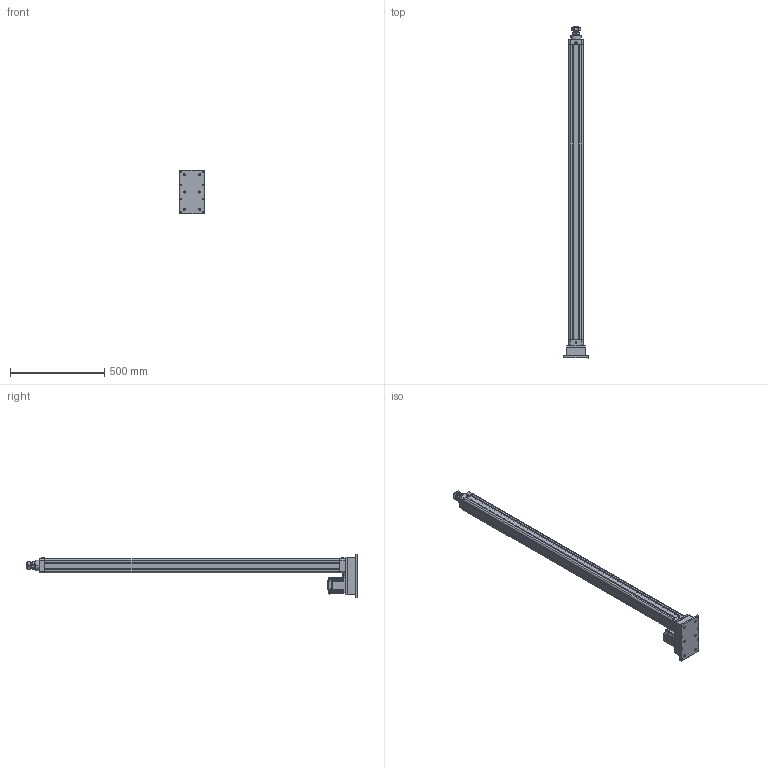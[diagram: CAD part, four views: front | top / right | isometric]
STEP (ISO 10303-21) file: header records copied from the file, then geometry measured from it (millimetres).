
FILE_DESCRIPTION((''),'2;1');
FILE_NAME('HE63-D-100-X1_ASM','2020-04-29T',('ASUS20200'),(''),'CREO PARAMETRIC BY PTC INC, 2014190','CREO PARAMETRIC BY PTC INC, 2014190','');
FILE_SCHEMA(('CONFIG_CONTROL_DESIGN'));
Length unit declared in the file: millimetre
Products named in the file (23): HE63-D-P-001-X1; HE63-D-P-002-X1; HE63-D-P-003-X1; LGLM-M8-22; SLM-01; YZ-M6X1; JDB405030; HE63-P-010-X1-80N; _MHMF082L1A2; MHMF082L1A2M2_1_ASM; JX6X6X25; HE63-P-012-X1; HE63-P-013-X1; M6X60; JM-M8; LM-M8-15; LM-M8X1-25; HE63-D-P-005-X1; HE63-D-P-004-X1; HE63-D-P-008-X1; TD-6; M6X25; HE63-D-100-X1_ASM
Assembly tree (40 placements, depth 3):
  HE63-D-100-X1_ASM
    HE63-D-P-001-X1
    HE63-D-P-002-X1
    HE63-D-P-003-X1
    LGLM-M8-22  x8
    SLM-01
    YZ-M6X1
    JDB405030
    HE63-P-010-X1-80N
    MHMF082L1A2M2_1_ASM
      _MHMF082L1A2
    JX6X6X25
    HE63-P-012-X1
    HE63-P-013-X1
    M6X60  x6
    JM-M8
    LM-M8-15
    LM-M8X1-25
    HE63-D-P-005-X1
    HE63-D-P-004-X1
    HE63-D-P-008-X1
    TD-6  x4
    M6X25  x4
Bounding box: 130 x 1757 x 230 mm (x, y, z)
Volume: 4803524.8 mm3; surface area: 1463272.3 mm2
Topology: 39 solids, 69 shells, 2066 faces, 4931 edges, 3038 vertices
Faces by surface type: plane 775, cylinder 605, cone 551, torus 102, sphere 30, bspline 3
Entity records: 48664 total; most frequent: CARTESIAN_POINT 9318, DIRECTION 8747, ORIENTED_EDGE 7614, EDGE_CURVE 3857, AXIS2_PLACEMENT_3D 3375, VERTEX_POINT 2385, VECTOR 1997, LINE 1997
